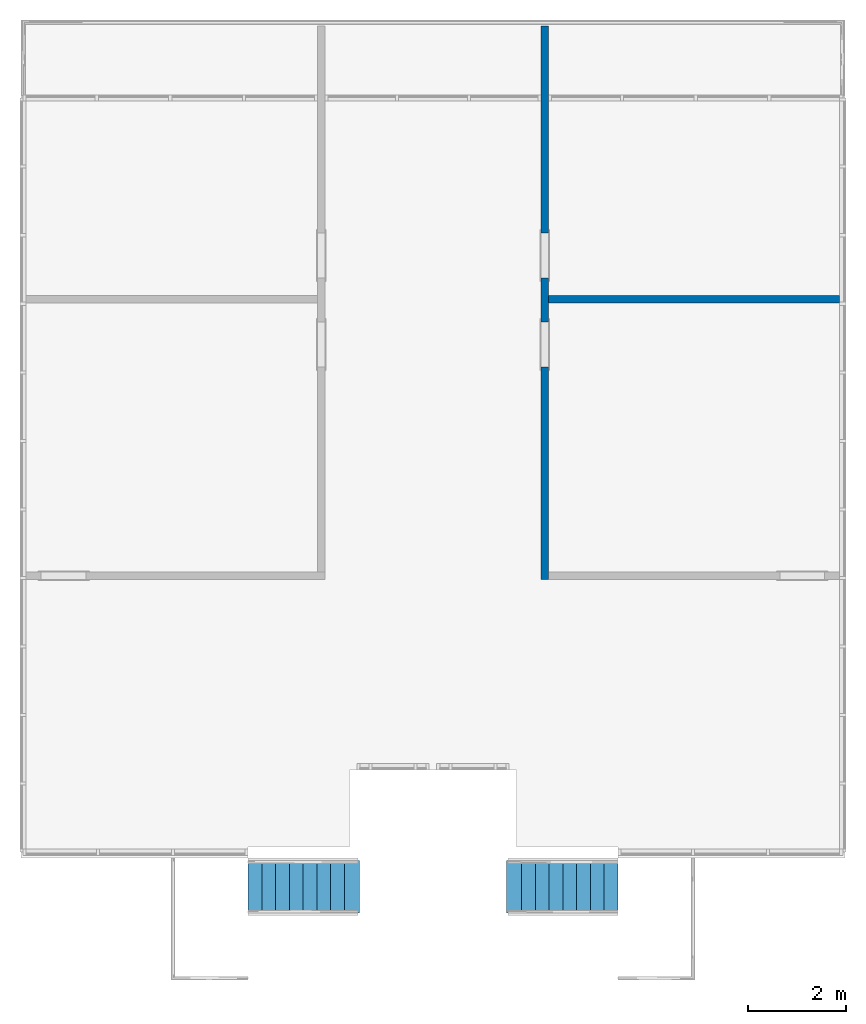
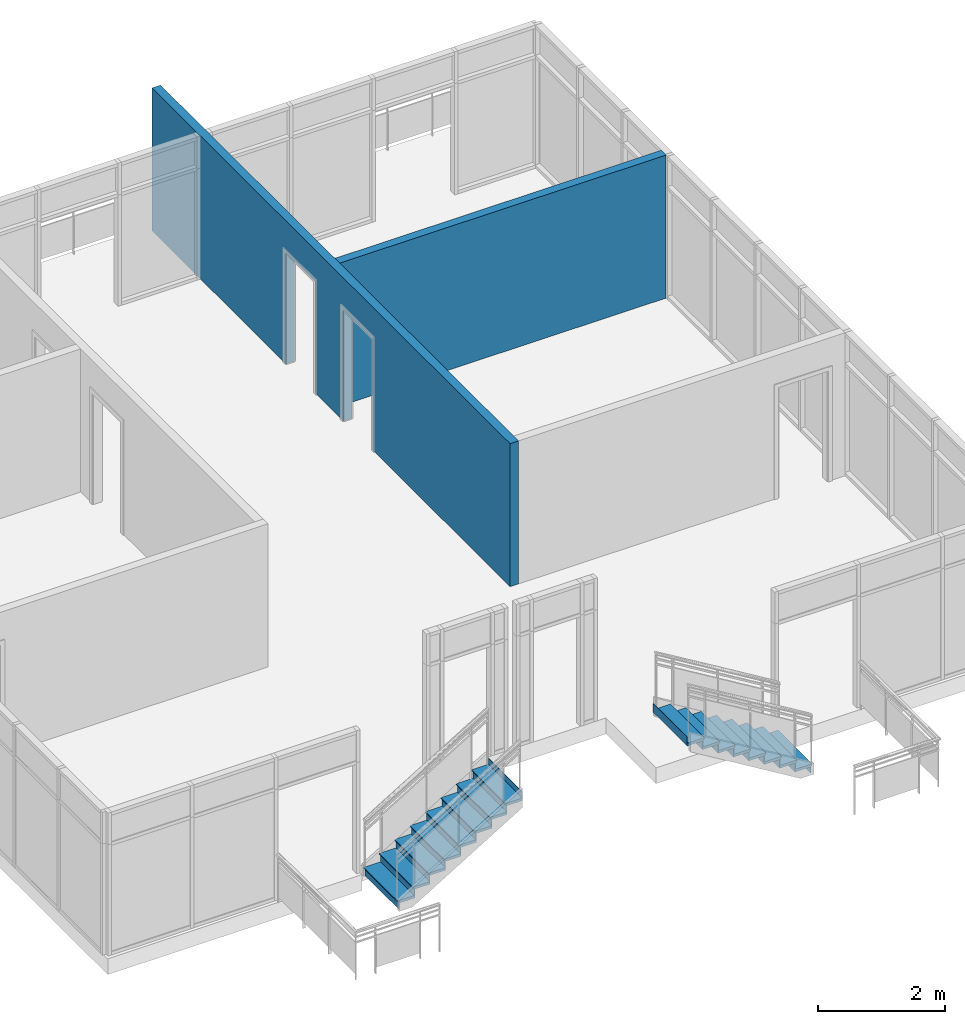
# One storey, part 7 of 11: 2 stair flights, 2 walls, 2 openings, 1 element without a shape of its own.
"""IFC2X3 building model written with IfcOpenShell, lengths in feet."""

from ifc_helpers import new_model, entity, si_unit, converted_unit, derived_unit, direction, frame, frame_2d, origin, origin_2d_with_axis, place, context, subcontext, project, spatial, polyline, rectangle, outline, extrude, material, layer, layer_set, layer_usage, type_object, element, aggregate, save


model = new_model("IFC2X3")

# Units and contexts
model_context = context("Model", 3, precision=0.0001, world=origin(), true_north=direction((6.12303176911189e-17, 1.0)))
body_context = subcontext(model_context, "Body", "Model", "MODEL_VIEW")
ifc_project = project(units=[converted_unit("LENGTHUNIT", "FOOT", entity("IfcRatioMeasure", 0.3048), si_unit("LENGTHUNIT", "METRE"), dimensions=[1, 0, 0, 0, 0, 0, 0]), converted_unit("AREAUNIT", "SQUARE FOOT", entity("IfcRatioMeasure", 0.09290304), si_unit("AREAUNIT", "SQUARE_METRE"), dimensions=[2, 0, 0, 0, 0, 0, 0]), converted_unit("VOLUMEUNIT", "CUBIC FOOT", entity("IfcRatioMeasure", 0.028316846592), si_unit("VOLUMEUNIT", "CUBIC_METRE"), dimensions=[3, 0, 0, 0, 0, 0, 0]), converted_unit("PLANEANGLEUNIT", "DEGREE", entity("IfcRatioMeasure", 0.0174532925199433), si_unit("PLANEANGLEUNIT", "RADIAN"), dimensions=[0, 0, 0, 0, 0, 0, 0]), si_unit("MASSUNIT", "GRAM", prefix="KILO"), derived_unit("MASSDENSITYUNIT", [(si_unit("MASSUNIT", "GRAM", prefix="KILO"), 1), (si_unit("LENGTHUNIT", "METRE"), -3)]), si_unit("TIMEUNIT", "SECOND"), si_unit("FREQUENCYUNIT", "HERTZ"), si_unit("THERMODYNAMICTEMPERATUREUNIT", "DEGREE_CELSIUS"), derived_unit("THERMALTRANSMITTANCEUNIT", [(si_unit("MASSUNIT", "GRAM", prefix="KILO"), 1), (si_unit("THERMODYNAMICTEMPERATUREUNIT", "KELVIN"), -1), (si_unit("TIMEUNIT", "SECOND"), -3)]), derived_unit("VOLUMETRICFLOWRATEUNIT", [(si_unit("LENGTHUNIT", "METRE"), 3), (si_unit("TIMEUNIT", "SECOND"), -1)]), si_unit("ELECTRICCURRENTUNIT", "AMPERE"), si_unit("ELECTRICVOLTAGEUNIT", "VOLT"), si_unit("POWERUNIT", "WATT"), si_unit("FORCEUNIT", "NEWTON"), si_unit("ILLUMINANCEUNIT", "LUX"), si_unit("LUMINOUSFLUXUNIT", "LUMEN"), si_unit("LUMINOUSINTENSITYUNIT", "CANDELA"), derived_unit("USERDEFINED", [(si_unit("MASSUNIT", "GRAM", prefix="KILO"), -1), (si_unit("LENGTHUNIT", "METRE"), -2), (si_unit("TIMEUNIT", "SECOND"), 3), (si_unit("LUMINOUSFLUXUNIT", "LUMEN"), 1)]), derived_unit("LINEARVELOCITYUNIT", [(si_unit("LENGTHUNIT", "METRE"), 1), (si_unit("TIMEUNIT", "SECOND"), -1)]), si_unit("PRESSUREUNIT", "PASCAL"), derived_unit("USERDEFINED", [(si_unit("LENGTHUNIT", "METRE"), -2), (si_unit("MASSUNIT", "GRAM", prefix="KILO"), 1), (si_unit("TIMEUNIT", "SECOND"), -2)])], contexts=[model_context])

# Site, building, storey
site_placement = place(None, origin())
site = spatial("IfcSite", under=ifc_project, at=site_placement, Name="Default", CompositionType="ELEMENT")
building_placement = place(site_placement, origin())
building = spatial("IfcBuilding", under=site, at=building_placement, CompositionType="ELEMENT")
storey_placement = place(building_placement, frame((0.0, 0.0, 40.0)))
storey = spatial("IfcBuildingStorey", under=building, at=storey_placement, Name="L 7", CompositionType="ELEMENT", Elevation=39.9999999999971)

# Wall, openings
ifc_material = material(Name="Default Wall")
ifc_layer = layer(ifc_material, 0.5)
ifc_layer_set = layer_set([ifc_layer], Name="Basic Wall:Generic - 6\"")
ifc_layer_usage_1 = layer_usage(ifc_layer_set, "AXIS2", "NEGATIVE", 0.25)
wall_type = type_object("IfcWallType", Name="Basic Wall:Generic - 6\"", PredefinedType="STANDARD", material=ifc_layer_set)
wall_1_placement = place(storey_placement, frame((-26.5372839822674, 48.1421920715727, 0.0), z_axis=(0.0, 0.0, 1.0), x_axis=(0.0, -1.0, 0.0)))
wall_1 = element("IfcWallStandardCase", 1, at=wall_1_placement, inside=storey, type_object=wall_type, material=ifc_layer_usage_1, Name="Basic Wall:Generic - 6\"", ObjectType="Basic Wall:Generic - 6\":219", context=body_context, shape_type="SweptSolid", body=[
    extrude(rectangle(XDim=36.9027777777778, YDim=0.5, at=frame_2d((18.4513888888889, -6.66133814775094e-16), x_axis=(-1.0, 0.0))), origin(), (0.0, 0.0, 1.0), 9.0),
])
opening_1_placement = place(wall_1_placement, origin())
element("IfcOpeningElement", 2, at=opening_1_placement, cuts=wall_1, Name="Basic Wall:Generic - 6\"", ObjectType="Opening", context=body_context, shape_type="SweptSolid", body=[
    extrude(rectangle(XDim=7.0, YDim=3.0, at=frame_2d((0.0, 0.0), x_axis=(0.0, 1.0))), frame((15.2916666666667, -5.25, 3.5), z_axis=(0.0, 1.0, 0.0), x_axis=(1.0, 0.0, 0.0)), (0.0, 0.0, 1.0), 10.0),
])
opening_2_placement = place(wall_1_placement, origin())
element("IfcOpeningElement", 3, at=opening_2_placement, cuts=wall_1, Name="Basic Wall:Generic - 6\"", ObjectType="Opening", context=body_context, shape_type="SweptSolid", body=[
    extrude(rectangle(XDim=7.0, YDim=3.0, at=origin_2d_with_axis()), frame((21.2222222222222, -4.75, 3.5), z_axis=(0.0, 1.0, 0.0), x_axis=(0.0, 0.0, -1.0)), (0.0, 0.0, 1.0), 10.0),
])

# Wall
ifc_layer_usage_2 = layer_usage(ifc_layer_set, "AXIS2", "NEGATIVE", 0.25)
wall_2_placement = place(storey_placement, frame((-6.86682943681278, 29.9199698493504, 0.0), z_axis=(0.0, 0.0, 1.0), x_axis=(-1.0, 0.0, 0.0)))
element("IfcWallStandardCase", 4, at=wall_2_placement, inside=storey, type_object=wall_type, material=ifc_layer_usage_2, Name="Basic Wall:Generic - 6\"", ObjectType="Basic Wall:Generic - 6\":219", context=body_context, shape_type="SweptSolid", body=[
    extrude(rectangle(XDim=19.4204545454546, YDim=0.5, at=frame_2d((9.71022727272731, -4.02455846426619e-16), x_axis=(-1.0, 0.0))), origin(), (0.0, 0.0, 1.0), 9.0),
])

# Stair, stair flights
stair_placement = place(storey_placement, origin())
stair = element("IfcStair", 5, at=stair_placement, inside=storey, Name="Assembled Stair:Stair", ObjectType="Assembled Stair:7\" max riser 11\" tread", ShapeType="NOTDEFINED")
stair_flight_1_placement = place(stair_placement, origin())
stair_flight_1 = element("IfcStairFlight", 6, at=stair_flight_1_placement, Name="Assembled Stair:Stair:191385 Run 1", ObjectType="Assembled Stair:7\" max riser 11\" tread", NumberOfRiser=9, NumberOfTreads=8, RiserHeight=0.555555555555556, TreadLength=0.916666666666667, context=body_context, shape_type="SweptSolid", body=[
    extrude(outline(polyline([(-0.0902777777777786, -0.638888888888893), (0.0763888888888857, -0.638888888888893), (0.0763888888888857, 0.277777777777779), (0.0555555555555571, 0.277777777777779), (-0.0277777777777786, 0.361111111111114), (-0.0902777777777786, 0.361111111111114), (-0.0902777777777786, -0.638888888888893)])), frame((-45.9640516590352, -11.0036412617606, 0.465277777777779), z_axis=(0.0, 1.0, 0.0), x_axis=(0.0, 0.0, -1.0)), (0.0, 0.0, 1.0), 3.5),
    extrude(rectangle(XDim=3.5, YDim=0.0208333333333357, at=frame_2d((0.0, 3.5527136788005e-15), x_axis=(1.0, 0.0))), frame((-46.2314127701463, -9.25364126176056, 0.0), z_axis=(0.0, 0.0, 1.0), x_axis=(0.0, 1.0, 0.0)), (0.0, 0.0, 1.0), 0.388888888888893),
    extrude(rectangle(XDim=3.5, YDim=0.0208333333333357, at=origin_2d_with_axis()), frame((-45.3147461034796, -9.25364126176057, 0.388888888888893), z_axis=(0.0, 0.0, 1.0), x_axis=(0.0, 1.0, 0.0)), (0.0, 0.0, 1.0), 0.555555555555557),
    extrude(outline(polyline([(-0.0902777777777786, -0.638888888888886), (0.0763888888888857, -0.638888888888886), (0.0763888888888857, 0.277777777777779), (0.0555555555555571, 0.277777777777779), (-0.0277777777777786, 0.361111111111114), (-0.0902777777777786, 0.361111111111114), (-0.0902777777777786, -0.638888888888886)])), frame((-45.0473849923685, -11.0036412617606, 1.02083333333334), z_axis=(0.0, 1.0, 0.0), x_axis=(0.0, 0.0, -1.0)), (0.0, 0.0, 1.0), 3.5),
    extrude(rectangle(XDim=3.5, YDim=0.0208333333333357, at=origin_2d_with_axis()), frame((-44.398079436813, -9.25364126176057, 0.944444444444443), z_axis=(0.0, 0.0, 1.0), x_axis=(0.0, 1.0, 0.0)), (0.0, 0.0, 1.0), 0.555555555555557),
    extrude(outline(polyline([(-0.0902777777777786, -0.638888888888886), (0.0763888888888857, -0.638888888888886), (0.0763888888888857, 0.277777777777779), (0.0555555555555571, 0.277777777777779), (-0.0277777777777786, 0.361111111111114), (-0.0902777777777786, 0.361111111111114), (-0.0902777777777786, -0.638888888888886)])), frame((-44.1307183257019, -11.0036412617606, 1.57638888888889), z_axis=(0.0, 1.0, 0.0), x_axis=(0.0, 0.0, -1.0)), (0.0, 0.0, 1.0), 3.5),
    extrude(rectangle(XDim=3.5, YDim=0.0208333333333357, at=origin_2d_with_axis()), frame((-43.4814127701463, -9.25364126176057, 1.5), z_axis=(0.0, 0.0, 1.0), x_axis=(0.0, 1.0, 0.0)), (0.0, 0.0, 1.0), 0.555555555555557),
    extrude(outline(polyline([(-0.0902777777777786, -0.638888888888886), (0.0763888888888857, -0.638888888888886), (0.0763888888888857, 0.277777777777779), (0.0555555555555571, 0.277777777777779), (-0.0277777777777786, 0.361111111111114), (-0.0902777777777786, 0.361111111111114), (-0.0902777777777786, -0.638888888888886)])), frame((-43.2140516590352, -11.0036412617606, 2.13194444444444), z_axis=(0.0, 1.0, 0.0), x_axis=(0.0, 0.0, -1.0)), (0.0, 0.0, 1.0), 3.5),
    extrude(rectangle(XDim=3.5, YDim=0.0208333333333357, at=origin_2d_with_axis()), frame((-42.5647461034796, -9.25364126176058, 2.05555555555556), z_axis=(0.0, 0.0, 1.0), x_axis=(0.0, 1.0, 0.0)), (0.0, 0.0, 1.0), 0.555555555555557),
    extrude(outline(polyline([(-0.0902777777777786, -0.638888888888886), (0.0763888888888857, -0.638888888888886), (0.0763888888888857, 0.277777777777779), (0.0555555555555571, 0.277777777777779), (-0.0277777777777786, 0.361111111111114), (-0.0902777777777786, 0.361111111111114), (-0.0902777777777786, -0.638888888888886)])), frame((-42.2973849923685, -11.0036412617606, 2.6875), z_axis=(0.0, 1.0, 0.0), x_axis=(0.0, 0.0, -1.0)), (0.0, 0.0, 1.0), 3.5),
    extrude(rectangle(XDim=3.5, YDim=0.0208333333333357, at=origin_2d_with_axis()), frame((-41.648079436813, -9.25364126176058, 2.61111111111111), z_axis=(0.0, 0.0, 1.0), x_axis=(0.0, 1.0, 0.0)), (0.0, 0.0, 1.0), 0.555555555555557),
    extrude(outline(polyline([(-0.0902777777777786, -0.638888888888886), (0.0763888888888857, -0.638888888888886), (0.0763888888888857, 0.277777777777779), (0.0555555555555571, 0.277777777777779), (-0.0277777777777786, 0.361111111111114), (-0.0902777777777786, 0.361111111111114), (-0.0902777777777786, -0.638888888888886)])), frame((-41.3807183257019, -11.0036412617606, 3.24305555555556), z_axis=(0.0, 1.0, 0.0), x_axis=(0.0, 0.0, -1.0)), (0.0, 0.0, 1.0), 3.5),
    extrude(rectangle(XDim=3.5, YDim=0.0208333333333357, at=origin_2d_with_axis()), frame((-40.7314127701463, -9.25364126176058, 3.16666666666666), z_axis=(0.0, 0.0, 1.0), x_axis=(0.0, 1.0, 0.0)), (0.0, 0.0, 1.0), 0.555555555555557),
    extrude(outline(polyline([(-0.0902777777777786, -0.638888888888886), (0.0763888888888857, -0.638888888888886), (0.0763888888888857, 0.277777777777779), (0.0555555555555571, 0.277777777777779), (-0.0277777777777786, 0.361111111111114), (-0.0902777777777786, 0.361111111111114), (-0.0902777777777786, -0.638888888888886)])), frame((-40.4640516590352, -11.0036412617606, 3.79861111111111), z_axis=(0.0, 1.0, 0.0), x_axis=(0.0, 0.0, -1.0)), (0.0, 0.0, 1.0), 3.5),
    extrude(rectangle(XDim=3.5, YDim=0.0208333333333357, at=origin_2d_with_axis()), frame((-39.8147461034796, -9.25364126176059, 3.72222222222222), z_axis=(0.0, 0.0, 1.0), x_axis=(0.0, 1.0, 0.0)), (0.0, 0.0, 1.0), 0.555555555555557),
    extrude(rectangle(XDim=3.5, YDim=0.0208333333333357, at=frame_2d((0.0, -3.5527136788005e-15), x_axis=(1.0, 0.0))), frame((-38.898079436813, -9.25364126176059, 4.27777777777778), z_axis=(0.0, 0.0, 1.0), x_axis=(0.0, 1.0, 0.0)), (0.0, 0.0, 1.0), 0.55555555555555),
    extrude(outline(polyline([(-0.0902777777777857, -0.638888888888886), (0.0763888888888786, -0.638888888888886), (0.0763888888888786, 0.277777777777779), (0.05555555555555, 0.277777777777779), (-0.0277777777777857, 0.361111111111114), (-0.0902777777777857, 0.361111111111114), (-0.0902777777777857, -0.638888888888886)])), frame((-39.5473849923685, -11.0036412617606, 4.35416666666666), z_axis=(0.0, 1.0, 0.0), x_axis=(0.0, 0.0, -1.0)), (0.0, 0.0, 1.0), 3.50000000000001),
])
stair_flight_2_placement = place(stair_placement, origin())
stair_flight_2 = element("IfcStairFlight", 7, at=stair_flight_2_placement, Name="Assembled Stair:Stair:191385 Run 2", ObjectType="Assembled Stair:7\" max riser 11\" tread", NumberOfRiser=9, NumberOfTreads=8, RiserHeight=0.555555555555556, TreadLength=0.916666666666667, context=body_context, shape_type="SweptSolid", body=[
    extrude(outline(polyline([(-0.0902777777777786, -0.361111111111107), (-0.0277777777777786, -0.361111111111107), (0.0555555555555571, -0.277777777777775), (0.0763888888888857, -0.277777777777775), (0.0763888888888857, 0.638888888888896), (-0.0902777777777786, 0.638888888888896), (-0.0902777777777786, -0.361111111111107)])), frame((-22.0196072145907, -11.0036412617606, 0.465277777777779), z_axis=(0.0, 1.0, 0.0), x_axis=(0.0, 0.0, -1.0)), (0.0, 0.0, 1.0), 3.5),
    extrude(rectangle(XDim=3.5, YDim=0.0208333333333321, at=frame_2d((0.0, -1.77635683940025e-15), x_axis=(1.0, 0.0))), frame((-21.7522461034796, -9.25364126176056, 0.0), z_axis=(0.0, 0.0, 1.0), x_axis=(0.0, -1.0, 0.0)), (0.0, 0.0, 1.0), 0.388888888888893),
    extrude(rectangle(XDim=3.5, YDim=0.0208333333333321, at=frame_2d((0.0, 1.77635683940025e-15), x_axis=(1.0, 0.0))), frame((-22.6689127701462, -9.25364126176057, 0.388888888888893), z_axis=(0.0, 0.0, 1.0), x_axis=(0.0, -1.0, 0.0)), (0.0, 0.0, 1.0), 0.555555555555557),
    extrude(outline(polyline([(-0.0902777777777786, -0.361111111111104), (-0.0277777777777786, -0.361111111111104), (0.0555555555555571, -0.277777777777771), (0.0763888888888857, -0.277777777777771), (0.0763888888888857, 0.638888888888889), (-0.0902777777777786, 0.638888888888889), (-0.0902777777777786, -0.361111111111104)])), frame((-22.9362738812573, -11.0036412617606, 1.02083333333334), z_axis=(0.0, 1.0, 0.0), x_axis=(0.0, 0.0, -1.0)), (0.0, 0.0, 1.0), 3.5),
    extrude(rectangle(XDim=3.5, YDim=0.0208333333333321, at=frame_2d((0.0, 1.77635683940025e-15), x_axis=(1.0, 0.0))), frame((-23.5855794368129, -9.25364126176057, 0.944444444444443), z_axis=(0.0, 0.0, 1.0), x_axis=(0.0, -1.0, 0.0)), (0.0, 0.0, 1.0), 0.555555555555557),
    extrude(outline(polyline([(-0.0902777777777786, -0.361111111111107), (-0.0277777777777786, -0.361111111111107), (0.0555555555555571, -0.277777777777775), (0.0763888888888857, -0.277777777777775), (0.0763888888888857, 0.638888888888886), (-0.0902777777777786, 0.638888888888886), (-0.0902777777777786, -0.361111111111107)])), frame((-23.852940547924, -11.0036412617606, 1.57638888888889), z_axis=(0.0, 1.0, 0.0), x_axis=(0.0, 0.0, -1.0)), (0.0, 0.0, 1.0), 3.5),
    extrude(rectangle(XDim=3.5, YDim=0.0208333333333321, at=frame_2d((0.0, 1.77635683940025e-15), x_axis=(1.0, 0.0))), frame((-24.5022461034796, -9.25364126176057, 1.5), z_axis=(0.0, 0.0, 1.0), x_axis=(0.0, -1.0, 0.0)), (0.0, 0.0, 1.0), 0.555555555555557),
    extrude(outline(polyline([(-0.0902777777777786, -0.361111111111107), (-0.0277777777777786, -0.361111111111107), (0.0555555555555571, -0.277777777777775), (0.0763888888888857, -0.277777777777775), (0.0763888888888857, 0.638888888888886), (-0.0902777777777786, 0.638888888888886), (-0.0902777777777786, -0.361111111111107)])), frame((-24.7696072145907, -11.0036412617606, 2.13194444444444), z_axis=(0.0, 1.0, 0.0), x_axis=(0.0, 0.0, -1.0)), (0.0, 0.0, 1.0), 3.5),
    extrude(rectangle(XDim=3.5, YDim=0.0208333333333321, at=frame_2d((0.0, 1.77635683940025e-15), x_axis=(1.0, 0.0))), frame((-25.4189127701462, -9.25364126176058, 2.05555555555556), z_axis=(0.0, 0.0, 1.0), x_axis=(0.0, -1.0, 0.0)), (0.0, 0.0, 1.0), 0.555555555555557),
    extrude(outline(polyline([(-0.0902777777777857, -0.361111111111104), (-0.0277777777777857, -0.361111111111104), (0.05555555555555, -0.277777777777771), (0.0763888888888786, -0.277777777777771), (0.0763888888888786, 0.638888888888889), (-0.0902777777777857, 0.638888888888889), (-0.0902777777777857, -0.361111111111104)])), frame((-25.6862738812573, -11.0036412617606, 2.68749999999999), z_axis=(0.0, 1.0, 0.0), x_axis=(0.0, 0.0, -1.0)), (0.0, 0.0, 1.0), 3.5),
    extrude(rectangle(XDim=3.5, YDim=0.0208333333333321, at=frame_2d((0.0, 1.77635683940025e-15), x_axis=(1.0, 0.0))), frame((-26.3355794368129, -9.25364126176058, 2.61111111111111), z_axis=(0.0, 0.0, 1.0), x_axis=(0.0, -1.0, 0.0)), (0.0, 0.0, 1.0), 0.555555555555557),
    extrude(outline(polyline([(-0.0902777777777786, -0.361111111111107), (-0.0277777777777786, -0.361111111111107), (0.0555555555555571, -0.277777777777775), (0.0763888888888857, -0.277777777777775), (0.0763888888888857, 0.638888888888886), (-0.0902777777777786, 0.638888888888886), (-0.0902777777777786, -0.361111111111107)])), frame((-26.602940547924, -11.0036412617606, 3.24305555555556), z_axis=(0.0, 1.0, 0.0), x_axis=(0.0, 0.0, -1.0)), (0.0, 0.0, 1.0), 3.5),
    extrude(rectangle(XDim=3.5, YDim=0.0208333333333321, at=frame_2d((0.0, -1.77635683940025e-15), x_axis=(1.0, 0.0))), frame((-27.2522461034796, -9.25364126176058, 3.16666666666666), z_axis=(0.0, 0.0, 1.0), x_axis=(0.0, -1.0, 0.0)), (0.0, 0.0, 1.0), 0.555555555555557),
    extrude(outline(polyline([(-0.0902777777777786, -0.361111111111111), (-0.0277777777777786, -0.361111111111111), (0.0555555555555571, -0.277777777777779), (0.0763888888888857, -0.277777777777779), (0.0763888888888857, 0.638888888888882), (-0.0902777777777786, 0.638888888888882), (-0.0902777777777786, -0.361111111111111)])), frame((-27.5196072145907, -11.0036412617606, 3.79861111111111), z_axis=(0.0, 1.0, 0.0), x_axis=(0.0, 0.0, -1.0)), (0.0, 0.0, 1.0), 3.5),
    extrude(rectangle(XDim=3.5, YDim=0.0208333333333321, at=frame_2d((0.0, 1.77635683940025e-15), x_axis=(1.0, 0.0))), frame((-28.1689127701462, -9.25364126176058, 3.72222222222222), z_axis=(0.0, 0.0, 1.0), x_axis=(0.0, -1.0, 0.0)), (0.0, 0.0, 1.0), 0.555555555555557),
    extrude(rectangle(XDim=3.5, YDim=0.0208333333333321, at=frame_2d((0.0, -1.77635683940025e-15), x_axis=(1.0, 0.0))), frame((-29.0855794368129, -9.25364126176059, 4.27777777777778), z_axis=(0.0, 0.0, 1.0), x_axis=(0.0, -1.0, 0.0)), (0.0, 0.0, 1.0), 0.55555555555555),
    extrude(outline(polyline([(-0.0902777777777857, -0.361111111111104), (-0.0277777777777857, -0.361111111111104), (0.05555555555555, -0.277777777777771), (0.0763888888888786, -0.277777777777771), (0.0763888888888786, 0.638888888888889), (-0.0902777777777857, 0.638888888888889), (-0.0902777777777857, -0.361111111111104)])), frame((-28.4362738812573, -11.0036412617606, 4.35416666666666), z_axis=(0.0, 1.0, 0.0), x_axis=(0.0, 0.0, -1.0)), (0.0, 0.0, 1.0), 3.5),
])
aggregate(stair, [stair_flight_1, stair_flight_2])

save(model, "model.ifc")
